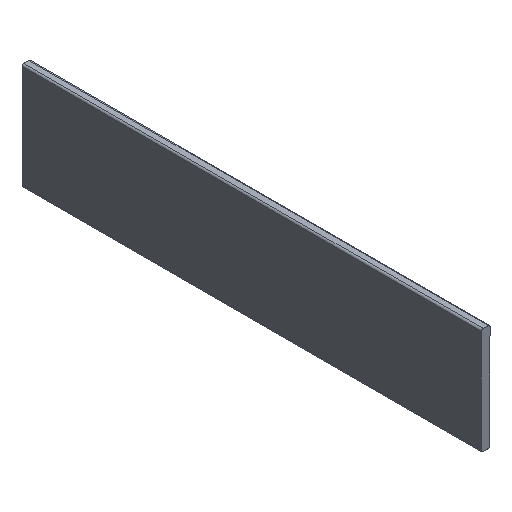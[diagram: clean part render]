
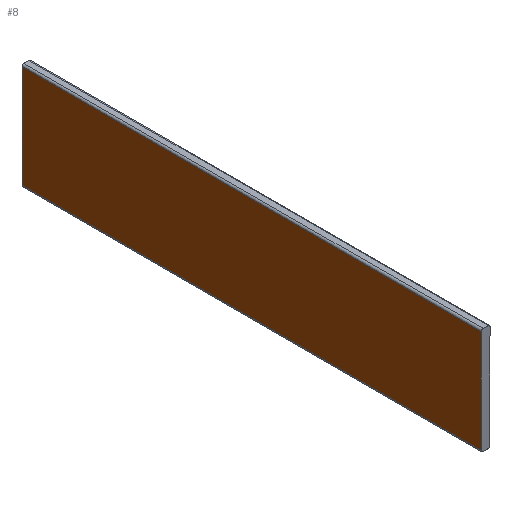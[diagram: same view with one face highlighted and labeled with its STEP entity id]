
A CAD part, isometric view. The second image highlights one B-rep face of the part: STEP entity #8.
In plain terms, the highlighted planar face has unit normal (-1, 0, 0).
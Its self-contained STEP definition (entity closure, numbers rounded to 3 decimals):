
#8 = ADVANCED_FACE ( 'NONE', ( #328 ), #250, .T. ) ;
#21 = LINE ( 'NONE', #195, #23 ) ;
#23 = VECTOR ( 'NONE', #182, 1000. ) ;
#30 = LINE ( 'NONE', #211, #33 ) ;
#33 = VECTOR ( 'NONE', #215, 1000. ) ;
#35 = LINE ( 'NONE', #204, #37 ) ;
#37 = VECTOR ( 'NONE', #179, 1000. ) ;
#55 = EDGE_CURVE ( 'NONE', #262, #258, #21, .T. ) ;
#74 = EDGE_CURVE ( 'NONE', #256, #258, #30, .T. ) ;
#76 = EDGE_CURVE ( 'NONE', #262, #263, #35, .T. ) ;
#101 = EDGE_CURVE ( 'NONE', #263, #256, #121, .T. ) ;
#102 = AXIS2_PLACEMENT_3D ( 'NONE', #140, #251, #252 ) ;
#121 = LINE ( 'NONE', #155, #122 ) ;
#122 = VECTOR ( 'NONE', #147, 1000. ) ;
#137 = CARTESIAN_POINT ( 'NONE',  ( -3.9, 413., 94.2 ) ) ;
#140 = CARTESIAN_POINT ( 'NONE',  ( -3.9, 413., 0. ) ) ;
#145 = CARTESIAN_POINT ( 'NONE',  ( -3.9, 0., 1.6 ) ) ;
#147 = DIRECTION ( 'NONE',  ( 0., 0., -1. ) ) ;
#148 = CARTESIAN_POINT ( 'NONE',  ( -3.9, 0., 94.2 ) ) ;
#155 = CARTESIAN_POINT ( 'NONE',  ( -3.9, 413., 0. ) ) ;
#165 = CARTESIAN_POINT ( 'NONE',  ( -3.9, 413., 1.6 ) ) ;
#179 = DIRECTION ( 'NONE',  ( 0., 1., 0. ) ) ;
#182 = DIRECTION ( 'NONE',  ( 0., 0., -1. ) ) ;
#195 = CARTESIAN_POINT ( 'NONE',  ( -3.9, 0., 0. ) ) ;
#204 = CARTESIAN_POINT ( 'NONE',  ( -3.9, 413., 94.2 ) ) ;
#211 = CARTESIAN_POINT ( 'NONE',  ( -3.9, 413., 1.6 ) ) ;
#215 = DIRECTION ( 'NONE',  ( 0., -1., 0. ) ) ;
#250 = PLANE ( 'NONE',  #102 ) ;
#251 = DIRECTION ( 'NONE',  ( -1., 0., 0. ) ) ;
#252 = DIRECTION ( 'NONE',  ( 0., -1., 0. ) ) ;
#256 = VERTEX_POINT ( 'NONE', #165 ) ;
#258 = VERTEX_POINT ( 'NONE', #145 ) ;
#262 = VERTEX_POINT ( 'NONE', #148 ) ;
#263 = VERTEX_POINT ( 'NONE', #137 ) ;
#281 = ORIENTED_EDGE ( 'NONE', *, *, #74, .T. ) ;
#289 = ORIENTED_EDGE ( 'NONE', *, *, #55, .F. ) ;
#303 = ORIENTED_EDGE ( 'NONE', *, *, #76, .T. ) ;
#304 = ORIENTED_EDGE ( 'NONE', *, *, #101, .T. ) ;
#318 = EDGE_LOOP ( 'NONE', ( #304, #281, #289, #303 ) ) ;
#328 = FACE_OUTER_BOUND ( 'NONE', #318, .T. ) ;
